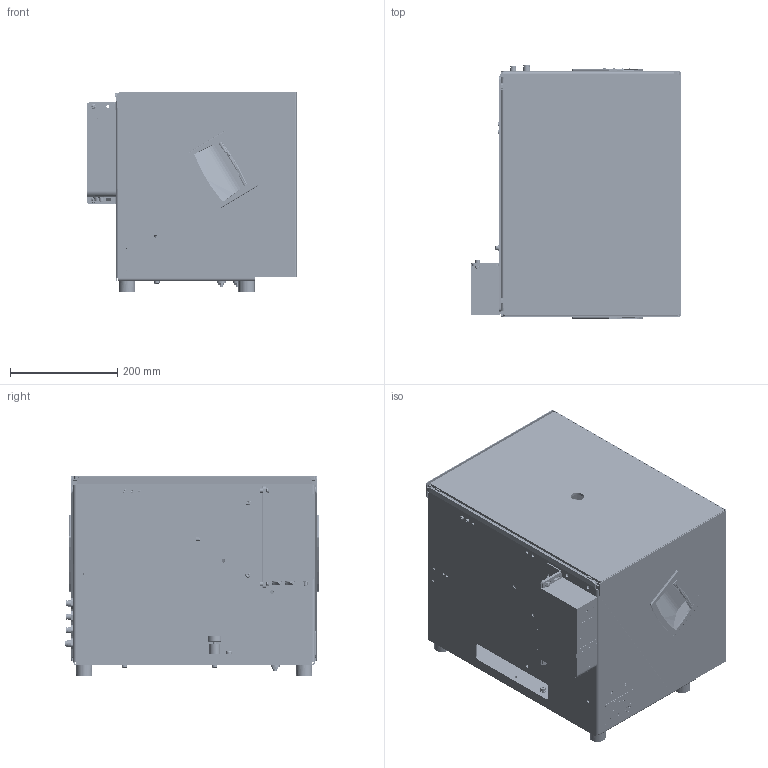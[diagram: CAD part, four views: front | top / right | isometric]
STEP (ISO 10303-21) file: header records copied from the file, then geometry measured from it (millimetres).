
FILE_DESCRIPTION(/* description */ ('© Copyright 2019 – Urheberrechtshinweis Diese CAD-Daten sind urheberrechtlich geschützt. Das Urheberrecht liegt, soweit nicht ausdrücklich anders gekennzeichnet, bei Stöger Automation GmbH. Bitte fragen Sie uns, falls Sie die CAD-Daten vervielfältigen oder','CAx-IF Rec.Pracs.---Representation and Presentation of Product Manufacturing Information (PMI)---4.0---2014-10-13'),/* implementation_level */ '2;1');
FILE_NAME(/* name */ 'H:\00_0 Arbeiten für Marketing\581406\3D_Step_file_ZSE2600 ELK.stp',/* time_stamp */ '2020-05-19T09:07:54+02:00',/* author */ ('Stöger Automation GmbH'),/* organization */ ('Stöger Automation GmbH'),/* preprocessor_version */ 'ST-DEVELOPER v17',/* originating_system */ 'Autodesk Inventor 2018',/* authorisation */ '');
FILE_SCHEMA (('AP242_MANAGED_MODEL_BASED_3D_ENGINEERING_MIM_LF { 1 0 10303 442 1 1 4 }'));
Products named in the file (1): 581406
Bounding box: 391.08 x 474.7 x 372 mm (x, y, z)
Volume: 11374530.2 mm3; surface area: 2621579.7 mm2
Topology: 20 solids, 117 shells, 9293 faces, 24623 edges, 16019 vertices
Faces by surface type: plane 4480, cylinder 2139, bspline 1439, cone 737, torus 357, sphere 141
Full cylindrical faces by diameter (mm): 0.5 x1, 0.65 x10, 0.8 x3, 1.2 x2, 1.8 x8, 1.9 x4, 2 x1, 2.2 x4, 2.459 x4, 2.65 x2, 2.8 x1, 2.9 x6, 3 x17, 3.03 x2, 3.05 x1, 3.1 x1, 3.242 x18, 3.387 x2, 3.48 x2, 3.5 x1, 3.6 x3, 3.8 x2, 3.99 x4, 4 x46, 4.019 x6, 4.03 x6, 4.134 x11, 4.2 x6, 4.3 x12, 4.4 x3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
Entity records: 335789 total; most frequent: CARTESIAN_POINT 103522, ORIENTED_EDGE 48866, DIRECTION 43291, EDGE_CURVE 24433, VERTEX_POINT 16019, AXIS2_PLACEMENT_3D 15521, LINE 12249, VECTOR 12249
